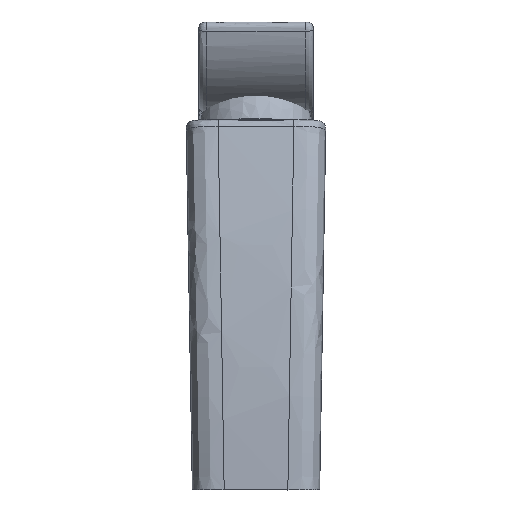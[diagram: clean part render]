
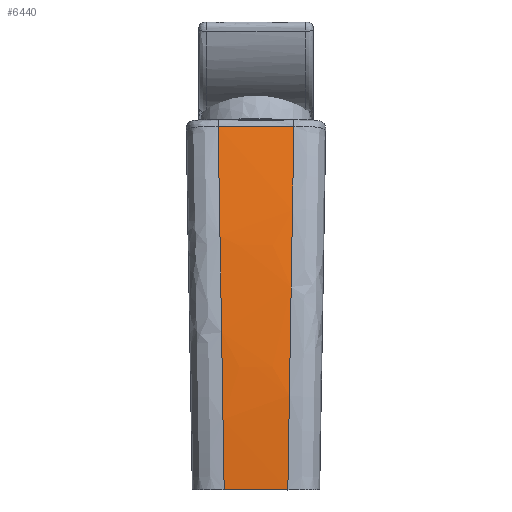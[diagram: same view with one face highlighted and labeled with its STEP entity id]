
A CAD part, top view. The second image highlights one B-rep face of the part: STEP entity #6440.
In plain terms, the highlighted free-form (B-spline) face has degree [3, 3] with [12, 4] control points.
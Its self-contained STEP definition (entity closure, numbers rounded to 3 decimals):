
#6440=ADVANCED_FACE('',(#22265),#22267,.T.);
#22265=FACE_BOUND('',#22266,.T.);
#22266=EDGE_LOOP('',(#28728,#28729,#28730,#28731));
#22267=B_SPLINE_SURFACE_WITH_KNOTS('',3,3,(
(#22268,#22269,#22270,#22271),
(#22272,#22273,#22274,#22275),
(#22276,#22277,#22278,#22279),
(#22280,#22281,#22282,#22283),
(#22284,#22285,#22286,#22287),
(#22288,#22289,#22290,#22291),
(#22292,#22293,#22294,#22295),
(#22296,#22297,#22298,#22299),
(#22300,#22301,#22302,#22303),
(#22304,#22305,#22306,#22307),
(#22308,#22309,#22310,#22311),
(#22312,#22313,#22314,#22315)),
.UNSPECIFIED.,.F.,.F.,.F.,
(4,1,1,1,2,1,1,1,4),
(4,4),
(0.75,0.781,0.813,0.844,0.875,0.906,0.938,0.969,1.),
(0.,1.),
.UNSPECIFIED.);
#22268=CARTESIAN_POINT('',(21.965,116.444,2.82));
#22269=CARTESIAN_POINT('',(21.31,78.769,14.608));
#22270=CARTESIAN_POINT('',(20.655,39.474,20.405));
#22271=CARTESIAN_POINT('',(20.,0.,20.));
#22272=CARTESIAN_POINT('',(20.135,116.444,2.82));
#22273=CARTESIAN_POINT('',(19.534,78.769,14.608));
#22274=CARTESIAN_POINT('',(18.934,39.474,20.405));
#22275=CARTESIAN_POINT('',(18.333,0.,20.));
#22276=CARTESIAN_POINT('',(16.474,116.444,2.82));
#22277=CARTESIAN_POINT('',(15.983,78.769,14.608));
#22278=CARTESIAN_POINT('',(15.491,39.474,20.405));
#22279=CARTESIAN_POINT('',(15.,0.,20.));
#22280=CARTESIAN_POINT('',(10.983,116.444,2.82));
#22281=CARTESIAN_POINT('',(10.655,78.769,14.608));
#22282=CARTESIAN_POINT('',(10.328,39.474,20.405));
#22283=CARTESIAN_POINT('',(10.,0.,20.));
#22284=CARTESIAN_POINT('',(5.491,116.444,2.82));
#22285=CARTESIAN_POINT('',(5.328,78.769,14.608));
#22286=CARTESIAN_POINT('',(5.164,39.474,20.405));
#22287=CARTESIAN_POINT('',(5.,0.,20.));
#22288=CARTESIAN_POINT('',(1.83,116.444,2.82));
#22289=CARTESIAN_POINT('',(1.776,78.769,14.608));
#22290=CARTESIAN_POINT('',(1.721,39.474,20.405));
#22291=CARTESIAN_POINT('',(1.667,0.,20.));
#22292=CARTESIAN_POINT('',(-1.83,116.444,2.82));
#22293=CARTESIAN_POINT('',(-1.776,78.769,14.608));
#22294=CARTESIAN_POINT('',(-1.721,39.474,20.405));
#22295=CARTESIAN_POINT('',(-1.667,0.,20.));
#22296=CARTESIAN_POINT('',(-5.491,116.444,2.82));
#22297=CARTESIAN_POINT('',(-5.328,78.769,14.608));
#22298=CARTESIAN_POINT('',(-5.164,39.474,20.405));
#22299=CARTESIAN_POINT('',(-5.,0.,20.));
#22300=CARTESIAN_POINT('',(-10.983,116.444,2.82));
#22301=CARTESIAN_POINT('',(-10.655,78.769,14.608));
#22302=CARTESIAN_POINT('',(-10.328,39.474,20.405));
#22303=CARTESIAN_POINT('',(-10.,0.,20.));
#22304=CARTESIAN_POINT('',(-16.474,116.444,2.82));
#22305=CARTESIAN_POINT('',(-15.983,78.769,14.608));
#22306=CARTESIAN_POINT('',(-15.491,39.474,20.405));
#22307=CARTESIAN_POINT('',(-15.,0.,20.));
#22308=CARTESIAN_POINT('',(-20.135,116.444,2.82));
#22309=CARTESIAN_POINT('',(-19.534,78.769,14.608));
#22310=CARTESIAN_POINT('',(-18.934,39.474,20.405));
#22311=CARTESIAN_POINT('',(-18.333,-0.,20.));
#22312=CARTESIAN_POINT('',(-21.965,116.444,2.82));
#22313=CARTESIAN_POINT('',(-21.31,78.769,14.608));
#22314=CARTESIAN_POINT('',(-20.655,39.474,20.405));
#22315=CARTESIAN_POINT('',(-20.,0.,20.));
#28728=ORIENTED_EDGE('',*,*,#30785,.T.);
#28729=ORIENTED_EDGE('',*,*,#30812,.T.);
#28730=ORIENTED_EDGE('',*,*,#30798,.T.);
#28731=ORIENTED_EDGE('',*,*,#30792,.T.);
#30785=EDGE_CURVE('',#32956,#32954,#32957,.T.);
#30792=EDGE_CURVE('',#32967,#32956,#32968,.T.);
#30798=EDGE_CURVE('',#32976,#32967,#32977,.T.);
#30812=EDGE_CURVE('',#32954,#32976,#32996,.T.);
#32954=VERTEX_POINT('',#40442);
#32956=VERTEX_POINT('',#40501);
#32957=B_SPLINE_CURVE_WITH_KNOTS('',3,
(#40502,#40503,#40504,#40505,#40506,#40507,#40508,#40509,#40510,#40511),
.UNSPECIFIED.,.F.,.F.,
(4,2,2,2,4),
(0.,0.25,0.5,0.75,1.),
.UNSPECIFIED.);
#32967=VERTEX_POINT('',#40667);
#32968=B_SPLINE_CURVE_WITH_KNOTS('',1,
(#40668,#40669),
.UNSPECIFIED.,.F.,.F.,
(2,2),
(0.,1.),
.UNSPECIFIED.);
#32976=VERTEX_POINT('',#40985);
#32977=B_SPLINE_CURVE_WITH_KNOTS('',3,
(#40986,#40987,#40988,#40989,#40990,#40991,#40992,#40993,#40994,#40995),
.UNSPECIFIED.,.F.,.F.,
(4,2,2,2,4),
(0.,0.25,0.5,0.75,1.),
.UNSPECIFIED.);
#32996=B_SPLINE_CURVE_WITH_KNOTS('',3,
(#41562,#41563,#41564,#41565,#41566,#41567,#41568,#41569,#41570,#41571),
.UNSPECIFIED.,.F.,.F.,
(4,1,1,2,1,1,4),
(0.,0.039,0.27,0.5,0.73,0.961,
1.),
.UNSPECIFIED.);
#40442=CARTESIAN_POINT('',(11.897,114.174,3.523));
#40501=CARTESIAN_POINT('',(10.,0.,20.));
#40502=CARTESIAN_POINT('',(10.,0.,20.));
#40503=CARTESIAN_POINT('',(10.105,6.291,20.065));
#40504=CARTESIAN_POINT('',(10.222,13.424,19.983));
#40505=CARTESIAN_POINT('',(10.482,29.341,19.243));
#40506=CARTESIAN_POINT('',(10.625,38.125,18.584));
#40507=CARTESIAN_POINT('',(10.939,57.28,16.342));
#40508=CARTESIAN_POINT('',(11.11,67.65,14.758));
#40509=CARTESIAN_POINT('',(11.481,89.859,10.257));
#40510=CARTESIAN_POINT('',(11.681,101.698,7.34));
#40511=CARTESIAN_POINT('',(11.897,114.174,3.523));
#40667=CARTESIAN_POINT('',(-10.,0.,20.));
#40668=CARTESIAN_POINT('',(-10.,0.,20.));
#40669=CARTESIAN_POINT('',(10.,0.,20.));
#40985=CARTESIAN_POINT('',(-11.897,114.174,3.523));
#40986=CARTESIAN_POINT('',(-11.897,114.174,3.523));
#40987=CARTESIAN_POINT('',(-11.681,101.698,7.34));
#40988=CARTESIAN_POINT('',(-11.481,89.859,10.257));
#40989=CARTESIAN_POINT('',(-11.11,67.65,14.758));
#40990=CARTESIAN_POINT('',(-10.939,57.28,16.342));
#40991=CARTESIAN_POINT('',(-10.625,38.125,18.584));
#40992=CARTESIAN_POINT('',(-10.482,29.341,19.243));
#40993=CARTESIAN_POINT('',(-10.222,13.424,19.983));
#40994=CARTESIAN_POINT('',(-10.105,6.291,20.065));
#40995=CARTESIAN_POINT('',(-10.,0.,20.));
#41562=CARTESIAN_POINT('',(11.897,114.174,3.523));
#41563=CARTESIAN_POINT('',(11.586,114.174,3.523));
#41564=CARTESIAN_POINT('',(9.447,114.174,3.523));
#41565=CARTESIAN_POINT('',(5.481,114.174,3.523));
#41566=CARTESIAN_POINT('',(1.827,114.174,3.523));
#41567=CARTESIAN_POINT('',(-1.827,114.174,3.523));
#41568=CARTESIAN_POINT('',(-5.481,114.174,3.523));
#41569=CARTESIAN_POINT('',(-9.447,114.174,3.523));
#41570=CARTESIAN_POINT('',(-11.586,114.174,3.523));
#41571=CARTESIAN_POINT('',(-11.897,114.174,3.523));
